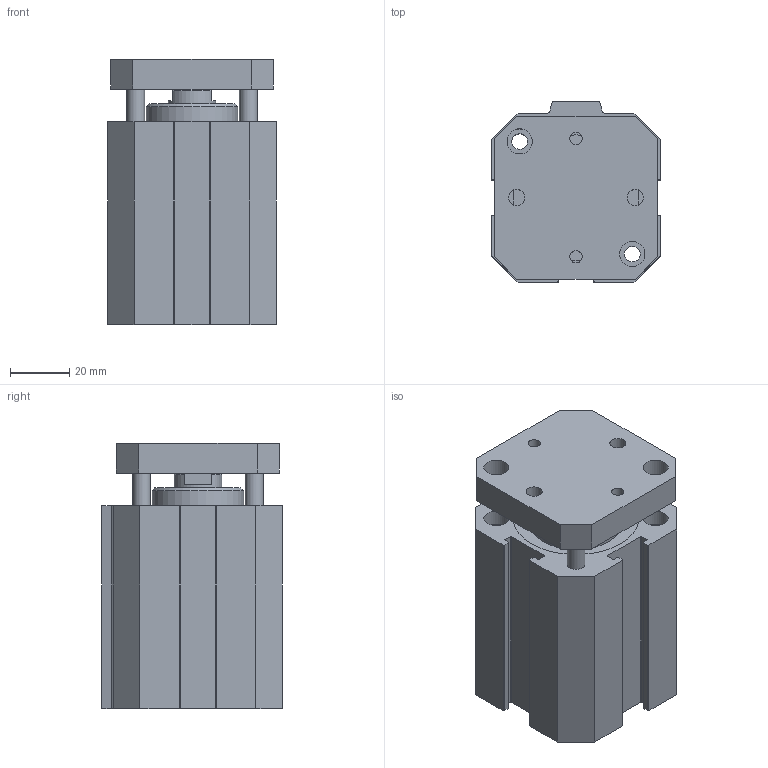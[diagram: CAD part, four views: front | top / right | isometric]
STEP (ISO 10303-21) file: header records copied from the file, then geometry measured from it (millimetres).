
FILE_DESCRIPTION(/* description */ ('TUBO PROFILATO COMPATTI Ø40'),/* implementation_level */ '2;1');
FILE_NAME(/* name */ 'I:\Area Tecnica\Disegni\VARIE-3D\Componenti\1500\Ø40\15##_40_####_#\1501_40_0035_AR.stp',/* time_stamp */ '2016-08-24T11:51:40+02:00',/* author */ ('Maniean1'),/* organization */ ('Pneumax S.p.A.'),/* preprocessor_version */ 'ST-DEVELOPER v15.2',/* originating_system */ 'Autodesk Inventor 2014',/* authorisation */ '');
FILE_SCHEMA (('AUTOMOTIVE_DESIGN { 1 0 10303 214 3 1 1 }'));
Length unit declared in the file: millimetre
Products named in the file (3): C_1501_40_0035_AR; S_1501_40_0035_AR; 1501_40_0035_AR
Bounding box: 57 x 61 x 89.5 mm (x, y, z)
Volume: 187751.3 mm3; surface area: 58482.4 mm2
Topology: 2 solids, 2 shells, 137 faces, 337 edges, 226 vertices
Faces by surface type: plane 74, cylinder 58, cone 5
Full cylindrical faces by diameter (mm): 4.134 x2, 5.3 x4, 5.5 x2, 6 x4, 8.5 x8, 8.566 x2, 9 x2, 16 x2, 31 x2, 40 x2, 42.5 x2
Entity records: 3998 total; most frequent: DIRECTION 698, CARTESIAN_POINT 662, ORIENTED_EDGE 588, EDGE_CURVE 294, AXIS2_PLACEMENT_3D 266, VERTEX_POINT 218, EDGE_LOOP 214, LINE 166
